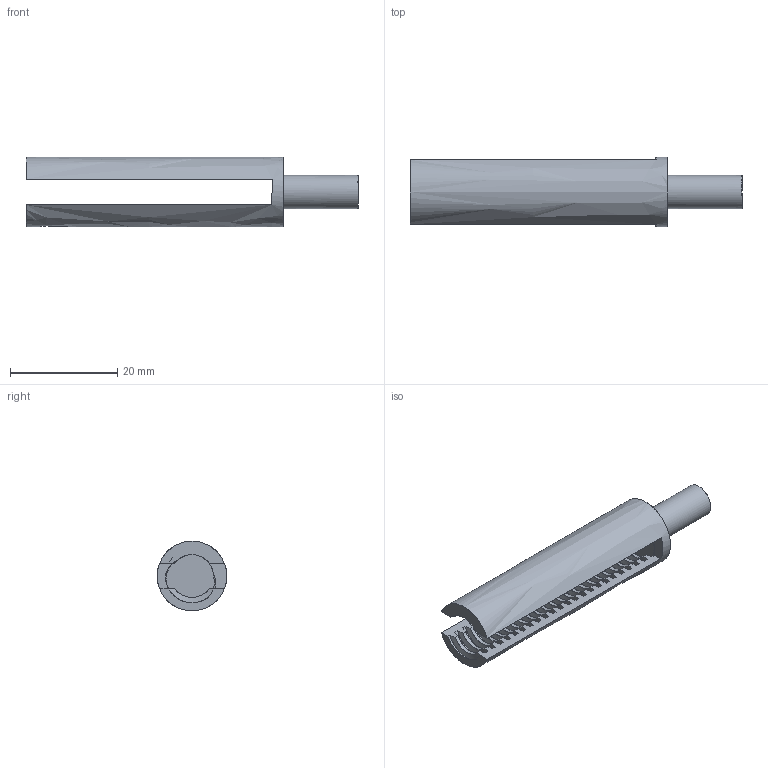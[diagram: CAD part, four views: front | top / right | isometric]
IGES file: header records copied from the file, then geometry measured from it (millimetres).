
Start section: C
Global section: file name: Or_4638507_c)_AVV.iges; native system: By Siemens PLM Incorporated; preprocessor: XPlus GENERIC/IGES 26.1.183; author: Author; organization: Title; date: 20250722.000232; units: millimetre
Bounding box: 62 x 13 x 13 mm (x, y, z)
Surface area: 4078 mm2 (no closed solid volume)
Topology: 0 solids, 0 shells, 277 faces, 3470 edges, 3470 vertices
Faces by surface type: bspline 277
